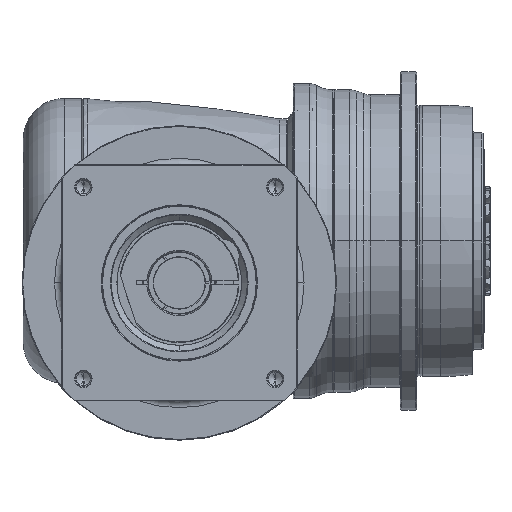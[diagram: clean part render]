
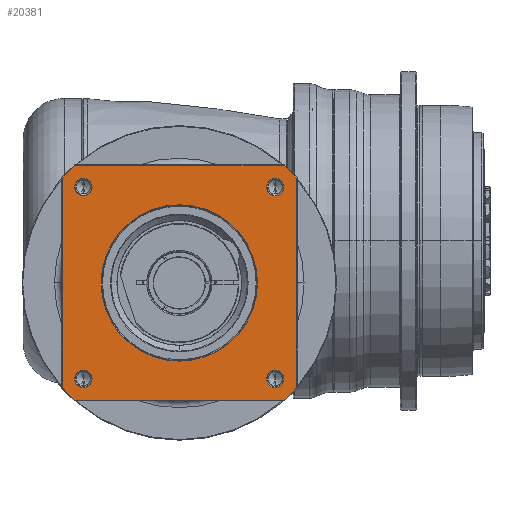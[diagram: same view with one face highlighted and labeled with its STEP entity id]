
A CAD part, front view. The second image highlights one B-rep face of the part: STEP entity #20381.
In plain terms, the highlighted planar face has unit normal (0, -1, 0) as drawn and (0, 0, 1) by its records, which use the part's own axes.
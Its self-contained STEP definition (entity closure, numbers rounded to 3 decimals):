
#19132=CARTESIAN_POINT('',(0.,0.,
76.));
#19133=DIRECTION('',(0.,0.,-1.));
#19134=DIRECTION('',(0.,-1.,0.));
#19135=AXIS2_PLACEMENT_3D('',#19132,#19133,#19134);
#19137=CARTESIAN_POINT('',(0.,0.,
76.));
#19138=DIRECTION('',(0.,0.,-1.));
#19139=DIRECTION('',(0.,1.,0.));
#19140=AXIS2_PLACEMENT_3D('',#19137,#19138,#19139);
#19142=CARTESIAN_POINT('',(0.,0.,76.));
#19143=DIRECTION('',(0.,0.,1.));
#19144=DIRECTION('',(-0.746,-0.666,0.));
#19145=AXIS2_PLACEMENT_3D('',#19142,#19143,#19144);
#19157=DIRECTION('',(1.,0.,0.));
#19158=VECTOR('',#19157,154.58);
#19159=CARTESIAN_POINT('',(-77.29,-86.5,76.));
#19160=LINE('',#19159,#19158);
#19170=CARTESIAN_POINT('',(0.,0.,76.));
#19171=DIRECTION('',(0.,0.,1.));
#19172=DIRECTION('',(0.666,-0.746,0.));
#19173=AXIS2_PLACEMENT_3D('',#19170,#19171,#19172);
#19185=DIRECTION('',(0.,1.,0.));
#19186=VECTOR('',#19185,154.58);
#19187=CARTESIAN_POINT('',(86.5,-77.29,76.));
#19188=LINE('',#19187,#19186);
#19198=CARTESIAN_POINT('',(0.,0.,76.));
#19199=DIRECTION('',(0.,0.,1.));
#19200=DIRECTION('',(0.746,0.666,0.));
#19201=AXIS2_PLACEMENT_3D('',#19198,#19199,#19200);
#19213=DIRECTION('',(-1.,0.,0.));
#19214=VECTOR('',#19213,154.58);
#19215=CARTESIAN_POINT('',(77.29,86.5,76.));
#19216=LINE('',#19215,#19214);
#19221=CARTESIAN_POINT('',(0.,0.,76.));
#19222=DIRECTION('',(0.,0.,1.));
#19223=DIRECTION('',(-0.666,0.746,0.));
#19224=AXIS2_PLACEMENT_3D('',#19221,#19222,#19223);
#19241=DIRECTION('',(0.,-1.,0.));
#19242=VECTOR('',#19241,154.58);
#19243=CARTESIAN_POINT('',(-86.5,77.29,76.));
#19244=LINE('',#19243,#19242);
#19327=CARTESIAN_POINT('',(-70.711,70.711,76.));
#19328=DIRECTION('',(0.,0.,1.));
#19329=DIRECTION('',(-1.,0.,0.));
#19330=AXIS2_PLACEMENT_3D('',#19327,#19328,#19329);
#19345=CARTESIAN_POINT('',(-70.711,70.711,76.));
#19346=DIRECTION('',(0.,0.,1.));
#19347=DIRECTION('',(1.,0.,0.));
#19348=AXIS2_PLACEMENT_3D('',#19345,#19346,#19347);
#19381=CARTESIAN_POINT('',(70.711,70.711,76.));
#19382=DIRECTION('',(0.,0.,1.));
#19383=DIRECTION('',(-1.,0.,0.));
#19384=AXIS2_PLACEMENT_3D('',#19381,#19382,#19383);
#19399=CARTESIAN_POINT('',(70.711,70.711,76.));
#19400=DIRECTION('',(0.,0.,1.));
#19401=DIRECTION('',(1.,0.,0.));
#19402=AXIS2_PLACEMENT_3D('',#19399,#19400,#19401);
#19435=CARTESIAN_POINT('',(70.711,-70.711,76.));
#19436=DIRECTION('',(0.,0.,1.));
#19437=DIRECTION('',(-1.,0.,0.));
#19438=AXIS2_PLACEMENT_3D('',#19435,#19436,#19437);
#19453=CARTESIAN_POINT('',(70.711,-70.711,76.));
#19454=DIRECTION('',(0.,0.,1.));
#19455=DIRECTION('',(1.,0.,0.));
#19456=AXIS2_PLACEMENT_3D('',#19453,#19454,#19455);
#19489=CARTESIAN_POINT('',(-70.711,-70.711,76.));
#19490=DIRECTION('',(0.,0.,1.));
#19491=DIRECTION('',(-1.,0.,0.));
#19492=AXIS2_PLACEMENT_3D('',#19489,#19490,#19491);
#19507=CARTESIAN_POINT('',(-70.711,-70.711,76.));
#19508=DIRECTION('',(0.,0.,1.));
#19509=DIRECTION('',(1.,0.,0.));
#19510=AXIS2_PLACEMENT_3D('',#19507,#19508,#19509);
#19639=CARTESIAN_POINT('',(86.5,-77.29,76.));
#19640=CARTESIAN_POINT('',(86.5,77.29,76.));
#19641=VERTEX_POINT('',#19639);
#19642=VERTEX_POINT('',#19640);
#19647=CARTESIAN_POINT('',(77.29,-86.5,76.));
#19648=VERTEX_POINT('',#19647);
#19651=CARTESIAN_POINT('',(-77.29,-86.5,76.));
#19652=VERTEX_POINT('',#19651);
#19655=CARTESIAN_POINT('',(-86.5,-77.29,76.));
#19656=VERTEX_POINT('',#19655);
#19659=CARTESIAN_POINT('',(-86.5,77.29,76.));
#19660=VERTEX_POINT('',#19659);
#19663=CARTESIAN_POINT('',(-77.29,86.5,76.));
#19664=VERTEX_POINT('',#19663);
#19667=CARTESIAN_POINT('',(77.29,86.5,76.));
#19668=VERTEX_POINT('',#19667);
#19677=CARTESIAN_POINT('',(-77.111,70.711,76.));
#19678=CARTESIAN_POINT('',(-64.311,70.711,76.));
#19679=VERTEX_POINT('',#19677);
#19680=VERTEX_POINT('',#19678);
#19703=CARTESIAN_POINT('',(77.111,70.711,76.));
#19704=CARTESIAN_POINT('',(64.311,70.711,76.));
#19705=VERTEX_POINT('',#19703);
#19706=VERTEX_POINT('',#19704);
#19711=CARTESIAN_POINT('',(77.111,-70.711,76.));
#19712=CARTESIAN_POINT('',(64.311,-70.711,76.));
#19713=VERTEX_POINT('',#19711);
#19714=VERTEX_POINT('',#19712);
#19719=CARTESIAN_POINT('',(-64.311,-70.711,76.));
#19720=CARTESIAN_POINT('',(-77.111,-70.711,76.));
#19721=VERTEX_POINT('',#19719);
#19722=VERTEX_POINT('',#19720);
#19727=CARTESIAN_POINT('',(0.,-57.65,76.));
#19728=CARTESIAN_POINT('',(0.,57.65,
76.));
#19729=VERTEX_POINT('',#19727);
#19730=VERTEX_POINT('',#19728);
#20329=CARTESIAN_POINT('',(0.,0.,76.));
#20330=DIRECTION('',(0.,0.,1.));
#20331=DIRECTION('',(1.,0.,0.));
#20332=AXIS2_PLACEMENT_3D('',#20329,#20330,#20331);
#20333=PLANE('',#20332);
#20335=ORIENTED_EDGE('',*,*,#20334,.F.);
#20337=ORIENTED_EDGE('',*,*,#20336,.F.);
#20339=ORIENTED_EDGE('',*,*,#20338,.F.);
#20341=ORIENTED_EDGE('',*,*,#20340,.F.);
#20343=ORIENTED_EDGE('',*,*,#20342,.F.);
#20345=ORIENTED_EDGE('',*,*,#20344,.F.);
#20347=ORIENTED_EDGE('',*,*,#20346,.F.);
#20349=ORIENTED_EDGE('',*,*,#20348,.F.);
#20350=EDGE_LOOP('',(#20335,#20337,#20339,#20341,#20343,#20345,#20347,#20349));
#20351=FACE_OUTER_BOUND('',#20350,.F.);
#20352=ORIENTED_EDGE('',*,*,#20319,.F.);
#20354=ORIENTED_EDGE('',*,*,#20353,.F.);
#20355=EDGE_LOOP('',(#20352,#20354));
#20356=FACE_BOUND('',#20355,.F.);
#20358=ORIENTED_EDGE('',*,*,#20357,.T.);
#20360=ORIENTED_EDGE('',*,*,#20359,.T.);
#20361=EDGE_LOOP('',(#20358,#20360));
#20362=FACE_BOUND('',#20361,.F.);
#20364=ORIENTED_EDGE('',*,*,#20363,.T.);
#20366=ORIENTED_EDGE('',*,*,#20365,.T.);
#20367=EDGE_LOOP('',(#20364,#20366));
#20368=FACE_BOUND('',#20367,.F.);
#20370=ORIENTED_EDGE('',*,*,#20369,.T.);
#20372=ORIENTED_EDGE('',*,*,#20371,.T.);
#20373=EDGE_LOOP('',(#20370,#20372));
#20374=FACE_BOUND('',#20373,.F.);
#20376=ORIENTED_EDGE('',*,*,#20375,.T.);
#20378=ORIENTED_EDGE('',*,*,#20377,.T.);
#20379=EDGE_LOOP('',(#20376,#20378));
#20380=FACE_BOUND('',#20379,.F.);
#20381=ADVANCED_FACE('',(#20351,#20356,#20362,#20368,#20374,#20380),#20333,.T.);
#19136=CIRCLE('',#19135,57.65);
#19141=CIRCLE('',#19140,57.65);
#19146=CIRCLE('',#19145,116.);
#19174=CIRCLE('',#19173,116.);
#19202=CIRCLE('',#19201,116.);
#19225=CIRCLE('',#19224,116.);
#19331=CIRCLE('',#19330,6.4);
#19349=CIRCLE('',#19348,6.4);
#19385=CIRCLE('',#19384,6.4);
#19403=CIRCLE('',#19402,6.4);
#19439=CIRCLE('',#19438,6.4);
#19457=CIRCLE('',#19456,6.4);
#19493=CIRCLE('',#19492,6.4);
#19511=CIRCLE('',#19510,6.4);
#20319=EDGE_CURVE('',#19729,#19730,#19136,.T.);
#20334=EDGE_CURVE('',#19656,#19652,#19146,.T.);
#20336=EDGE_CURVE('',#19660,#19656,#19244,.T.);
#20338=EDGE_CURVE('',#19664,#19660,#19225,.T.);
#20340=EDGE_CURVE('',#19668,#19664,#19216,.T.);
#20342=EDGE_CURVE('',#19642,#19668,#19202,.T.);
#20344=EDGE_CURVE('',#19641,#19642,#19188,.T.);
#20346=EDGE_CURVE('',#19648,#19641,#19174,.T.);
#20348=EDGE_CURVE('',#19652,#19648,#19160,.T.);
#20353=EDGE_CURVE('',#19730,#19729,#19141,.T.);
#20357=EDGE_CURVE('',#19679,#19680,#19331,.T.);
#20359=EDGE_CURVE('',#19680,#19679,#19349,.T.);
#20363=EDGE_CURVE('',#19706,#19705,#19385,.T.);
#20365=EDGE_CURVE('',#19705,#19706,#19403,.T.);
#20369=EDGE_CURVE('',#19714,#19713,#19439,.T.);
#20371=EDGE_CURVE('',#19713,#19714,#19457,.T.);
#20375=EDGE_CURVE('',#19722,#19721,#19493,.T.);
#20377=EDGE_CURVE('',#19721,#19722,#19511,.T.);
